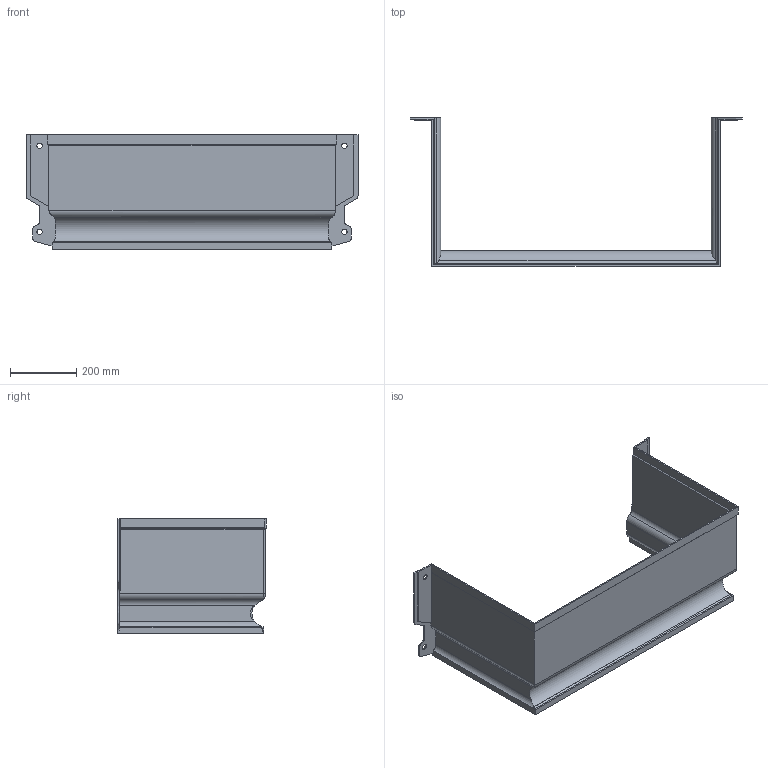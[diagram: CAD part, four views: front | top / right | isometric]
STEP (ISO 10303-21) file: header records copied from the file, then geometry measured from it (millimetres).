
FILE_DESCRIPTION(/* description */ (''),/* implementation_level */ '2;1');
FILE_NAME(/* name */ 'Q:\sge-bs-neu-2008\Marketing\CAD Zeichnungen\3D-CAD-Daten\3D Daten Website\- MEA Multinorm Aufsatz Kunststofflichtschacht_\Step\MEA_MULTINORM_Aufsatz_80x35x40.stp',/* time_stamp */ '2019-02-14T13:19:59+01:00',/* author */ ('avgrahammj'),/* organization */ (''),/* preprocessor_version */ 'ST-DEVELOPER v16.1',/* originating_system */ 'Autodesk Inventor 2016',/* authorisation */ '');
FILE_SCHEMA (('AUTOMOTIVE_DESIGN { 1 0 10303 214 3 1 1 }'));
Length unit declared in the file: centimetre
Products named in the file (1): MEA_MULTINORM_Aufsatz_80x35x40
Bounding box: 1002 x 448 x 345 mm (x, y, z)
Volume: 2695215.7 mm3; surface area: 1366224.9 mm2
Topology: 1 solids, 1 shells, 92 faces, 262 edges, 172 vertices
Faces by surface type: plane 60, cylinder 32
Full cylindrical faces by diameter (mm): 16 x4
Entity records: 3127 total; most frequent: CARTESIAN_POINT 705, ORIENTED_EDGE 512, DIRECTION 472, EDGE_CURVE 256, LINE 186, VECTOR 186, VERTEX_POINT 170, AXIS2_PLACEMENT_3D 143
